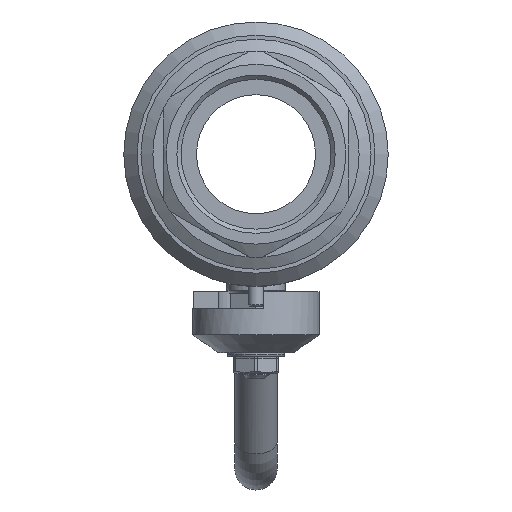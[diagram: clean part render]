
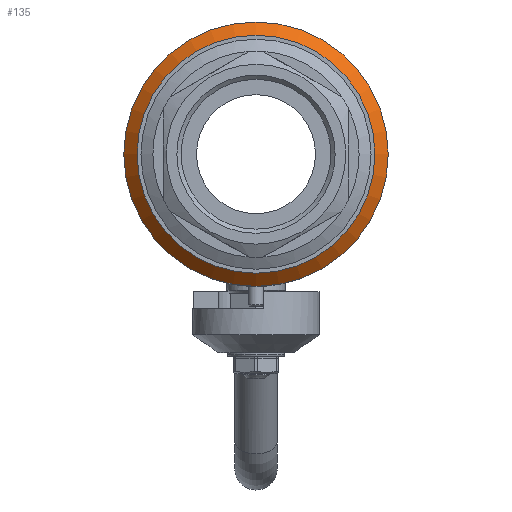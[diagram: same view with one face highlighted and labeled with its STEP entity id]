
A CAD part, left-side view. The second image highlights one B-rep face of the part: STEP entity #135.
In plain terms, the highlighted conical face has half-angle 45 degrees and reference radius 47.5 mm.
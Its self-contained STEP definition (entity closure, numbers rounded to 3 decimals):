
#135=ADVANCED_FACE('',(#1188),#1190,.T.);
#1188=FACE_OUTER_BOUND('',#1189,.T.);
#1189=EDGE_LOOP('',(#2287,#2288,#2289,#2290));
#1190=CONICAL_SURFACE('',#1191,47.5,0.785);
#1191=AXIS2_PLACEMENT_3D('',#1192,#1193,#1194);
#1192=CARTESIAN_POINT('',(-32.5,0.,0.));
#1193=DIRECTION('',(1.,0.,0.));
#1194=DIRECTION('',(0.,1.,0.));
#2287=ORIENTED_EDGE('',*,*,#3480,.T.);
#2288=ORIENTED_EDGE('',*,*,#3447,.T.);
#2289=ORIENTED_EDGE('',*,*,#3480,.F.);
#2290=ORIENTED_EDGE('',*,*,#3481,.F.);
#3447=EDGE_CURVE('',#3808,#3808,#3810,.T.);
#3480=EDGE_CURVE('',#3859,#3808,#3860,.T.);
#3481=EDGE_CURVE('',#3859,#3859,#3861,.T.);
#3808=VERTEX_POINT('',#5197);
#3810=CIRCLE('',#5201,50.);
#3859=VERTEX_POINT('',#5375);
#3860=LINE('',#5376,#5377);
#3861=CIRCLE('',#5379,45.);
#5197=CARTESIAN_POINT('',(-30.,-50.,0.));
#5201=AXIS2_PLACEMENT_3D('',#5202,#5203,#5204);
#5202=CARTESIAN_POINT('',(-30.,0.,0.));
#5203=DIRECTION('',(-1.,-0.,0.));
#5204=DIRECTION('',(0.,-1.,0.));
#5375=CARTESIAN_POINT('',(-35.,-45.,0.));
#5376=CARTESIAN_POINT('',(-35.,-45.,0.));
#5377=VECTOR('',#5378,1.);
#5378=DIRECTION('',(0.707,-0.707,0.));
#5379=AXIS2_PLACEMENT_3D('',#5380,#5381,#5382);
#5380=CARTESIAN_POINT('',(-35.,0.,0.));
#5381=DIRECTION('',(-1.,-0.,-0.));
#5382=DIRECTION('',(0.,-1.,0.));
